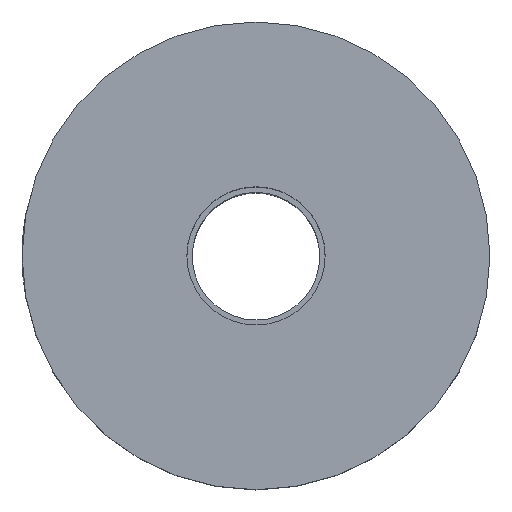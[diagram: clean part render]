
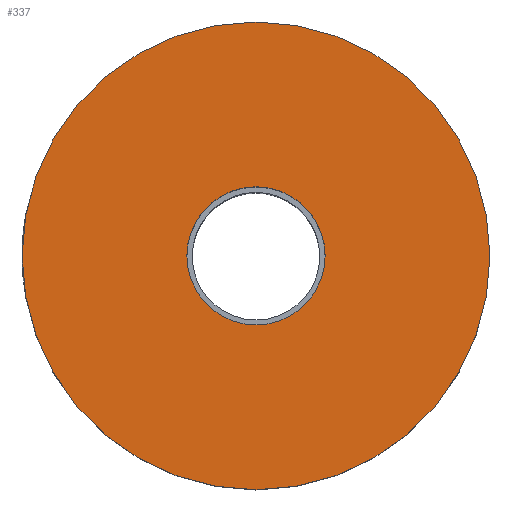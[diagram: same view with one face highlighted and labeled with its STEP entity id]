
A CAD part, top view. The second image highlights one B-rep face of the part: STEP entity #337.
In plain terms, the highlighted planar face has unit normal (0, 0, 1).
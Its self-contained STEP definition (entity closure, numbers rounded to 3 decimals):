
#54 = VERTEX_POINT ( 'NONE', #554 ) ;
#56 = ORIENTED_EDGE ( 'NONE', *, *, #470, .F. ) ;
#60 = DIRECTION ( 'NONE',  ( 0., 0., 1. ) ) ;
#66 = AXIS2_PLACEMENT_3D ( 'NONE', #278, #517, #643 ) ;
#69 = ORIENTED_EDGE ( 'NONE', *, *, #188, .F. ) ;
#95 = DIRECTION ( 'NONE',  ( 1., 0., 0. ) ) ;
#97 = DIRECTION ( 'NONE',  ( 0., 0., 1. ) ) ;
#98 = DIRECTION ( 'NONE',  ( 0., 0., 1. ) ) ;
#101 = CARTESIAN_POINT ( 'NONE',  ( 0., 0., 0. ) ) ;
#133 = DIRECTION ( 'NONE',  ( 0., 0., 1. ) ) ;
#135 = CIRCLE ( 'NONE', #555, 3.25 ) ;
#144 = VERTEX_POINT ( 'NONE', #292 ) ;
#146 = ORIENTED_EDGE ( 'NONE', *, *, #479, .T. ) ;
#157 = DIRECTION ( 'NONE',  ( 1., 0., 0. ) ) ;
#188 = EDGE_CURVE ( 'NONE', #331, #144, #135, .T. ) ;
#196 = FACE_OUTER_BOUND ( 'NONE', #593, .T. ) ;
#238 = DIRECTION ( 'NONE',  ( 1., 0., 0. ) ) ;
#244 = AXIS2_PLACEMENT_3D ( 'NONE', #332, #60, #157 ) ;
#278 = CARTESIAN_POINT ( 'NONE',  ( 0., 3.25, 0. ) ) ;
#285 = EDGE_LOOP ( 'NONE', ( #56, #69 ) ) ;
#292 = CARTESIAN_POINT ( 'NONE',  ( 3.25, 0., 0. ) ) ;
#331 = VERTEX_POINT ( 'NONE', #654 ) ;
#332 = CARTESIAN_POINT ( 'NONE',  ( 0., 0., 0. ) ) ;
#337 = ADVANCED_FACE ( 'NONE', ( #485, #196 ), #621, .F. ) ;
#340 = EDGE_CURVE ( 'NONE', #54, #649, #344, .T. ) ;
#344 = CIRCLE ( 'NONE', #244, 11. ) ;
#349 = CARTESIAN_POINT ( 'NONE',  ( 0., 0., 0. ) ) ;
#357 = AXIS2_PLACEMENT_3D ( 'NONE', #349, #97, #238 ) ;
#375 = AXIS2_PLACEMENT_3D ( 'NONE', #565, #133, #597 ) ;
#413 = CIRCLE ( 'NONE', #375, 11. ) ;
#470 = EDGE_CURVE ( 'NONE', #144, #331, #658, .T. ) ;
#479 = EDGE_CURVE ( 'NONE', #649, #54, #413, .T. ) ;
#485 = FACE_BOUND ( 'NONE', #285, .T. ) ;
#517 = DIRECTION ( 'NONE',  ( 0., 0., -1. ) ) ;
#554 = CARTESIAN_POINT ( 'NONE',  ( -11., 0., 0. ) ) ;
#555 = AXIS2_PLACEMENT_3D ( 'NONE', #101, #98, #95 ) ;
#565 = CARTESIAN_POINT ( 'NONE',  ( 0., 0., 0. ) ) ;
#567 = ORIENTED_EDGE ( 'NONE', *, *, #340, .T. ) ;
#590 = CARTESIAN_POINT ( 'NONE',  ( 11., 0., 0. ) ) ;
#593 = EDGE_LOOP ( 'NONE', ( #146, #567 ) ) ;
#597 = DIRECTION ( 'NONE',  ( 1., 0., 0. ) ) ;
#621 = PLANE ( 'NONE',  #66 ) ;
#643 = DIRECTION ( 'NONE',  ( -1., 0., 0. ) ) ;
#649 = VERTEX_POINT ( 'NONE', #590 ) ;
#654 = CARTESIAN_POINT ( 'NONE',  ( -3.25, 0., 0. ) ) ;
#658 = CIRCLE ( 'NONE', #357, 3.25 ) ;
